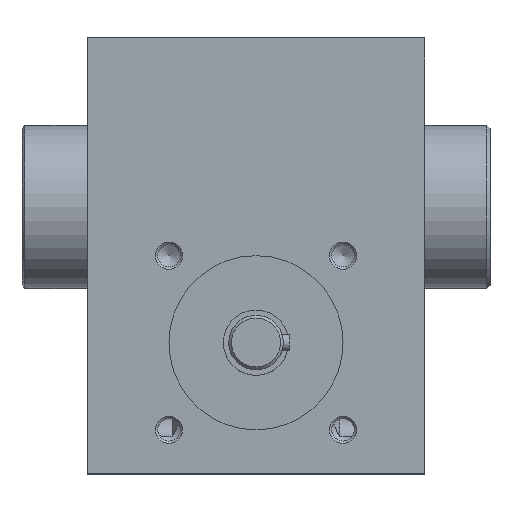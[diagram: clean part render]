
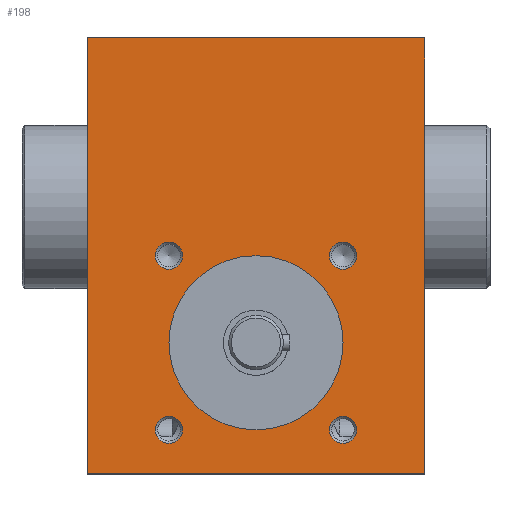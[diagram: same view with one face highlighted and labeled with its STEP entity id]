
A CAD part, top view. The second image highlights one B-rep face of the part: STEP entity #198.
In plain terms, the highlighted planar face has unit normal (0, 0, 1).
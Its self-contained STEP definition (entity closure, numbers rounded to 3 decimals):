
#198 = ADVANCED_FACE( '', ( #460, #461, #462, #463, #464, #465 ), #466, .T. );
#460 = FACE_BOUND( '', #803, .T. );
#461 = FACE_BOUND( '', #804, .T. );
#462 = FACE_BOUND( '', #805, .T. );
#463 = FACE_BOUND( '', #806, .T. );
#464 = FACE_BOUND( '', #807, .T. );
#465 = FACE_OUTER_BOUND( '', #808, .T. );
#466 = PLANE( '', #809 );
#803 = EDGE_LOOP( '', ( #1278 ) );
#804 = EDGE_LOOP( '', ( #1279 ) );
#805 = EDGE_LOOP( '', ( #1280 ) );
#806 = EDGE_LOOP( '', ( #1281 ) );
#807 = EDGE_LOOP( '', ( #1282 ) );
#808 = EDGE_LOOP( '', ( #1283, #1284, #1285, #1286 ) );
#809 = AXIS2_PLACEMENT_3D( '', #1287, #1288, #1289 );
#1278 = ORIENTED_EDGE( '', *, *, #1775, .F. );
#1279 = ORIENTED_EDGE( '', *, *, #1655, .F. );
#1280 = ORIENTED_EDGE( '', *, *, #1776, .F. );
#1281 = ORIENTED_EDGE( '', *, *, #1768, .F. );
#1282 = ORIENTED_EDGE( '', *, *, #1773, .F. );
#1283 = ORIENTED_EDGE( '', *, *, #1742, .T. );
#1284 = ORIENTED_EDGE( '', *, *, #1777, .T. );
#1285 = ORIENTED_EDGE( '', *, *, #1778, .T. );
#1286 = ORIENTED_EDGE( '', *, *, #1730, .T. );
#1287 = CARTESIAN_POINT( '', ( 0., -49., 36. ) );
#1288 = DIRECTION( '', ( 0., 0., 1. ) );
#1289 = DIRECTION( '', ( 1., 0., 0. ) );
#1655 = EDGE_CURVE( '', #1926, #1926, #1927, .T. );
#1730 = EDGE_CURVE( '', #2048, #2046, #2049, .T. );
#1742 = EDGE_CURVE( '', #2046, #2065, #2067, .T. );
#1768 = EDGE_CURVE( '', #2103, #2103, #2104, .T. );
#1773 = EDGE_CURVE( '', #2111, #2111, #2112, .T. );
#1775 = EDGE_CURVE( '', #2114, #2114, #2115, .T. );
#1776 = EDGE_CURVE( '', #2116, #2116, #2117, .T. );
#1777 = EDGE_CURVE( '', #2065, #2118, #2119, .T. );
#1778 = EDGE_CURVE( '', #2118, #2048, #2120, .T. );
#1926 = VERTEX_POINT( '', #2385 );
#1927 = CIRCLE( '', #2386, 2.5 );
#2046 = VERTEX_POINT( '', #2666 );
#2048 = VERTEX_POINT( '', #2669 );
#2049 = LINE( '', #2670, #2671 );
#2065 = VERTEX_POINT( '', #2700 );
#2067 = LINE( '', #2703, #2704 );
#2103 = VERTEX_POINT( '', #2762 );
#2104 = CIRCLE( '', #2763, 2.5 );
#2111 = VERTEX_POINT( '', #2770 );
#2112 = CIRCLE( '', #2771, 16. );
#2114 = VERTEX_POINT( '', #2773 );
#2115 = CIRCLE( '', #2774, 2.5 );
#2116 = VERTEX_POINT( '', #2775 );
#2117 = CIRCLE( '', #2776, 2.5 );
#2118 = VERTEX_POINT( '', #2777 );
#2119 = LINE( '', #2778, #2779 );
#2120 = LINE( '', #2780, #2781 );
#2385 = CARTESIAN_POINT( '', ( 49.5, -9., 36. ) );
#2386 = AXIS2_PLACEMENT_3D( '', #2959, #2960, #2961 );
#2666 = CARTESIAN_POINT( '', ( 0., 31., 36. ) );
#2669 = CARTESIAN_POINT( '', ( 62., 31., 36. ) );
#2670 = CARTESIAN_POINT( '', ( 62., 31., 36. ) );
#2671 = VECTOR( '', #3069, 1000. );
#2700 = CARTESIAN_POINT( '', ( 0., -49., 36. ) );
#2703 = CARTESIAN_POINT( '', ( 0., 31., 36. ) );
#2704 = VECTOR( '', #3083, 1000. );
#2762 = CARTESIAN_POINT( '', ( 17.5, -41., 36. ) );
#2763 = AXIS2_PLACEMENT_3D( '', #3111, #3112, #3113 );
#2770 = CARTESIAN_POINT( '', ( 47., -25., 36. ) );
#2771 = AXIS2_PLACEMENT_3D( '', #3120, #3121, #3122 );
#2773 = CARTESIAN_POINT( '', ( 17.5, -9., 36. ) );
#2774 = AXIS2_PLACEMENT_3D( '', #3123, #3124, #3125 );
#2775 = CARTESIAN_POINT( '', ( 49.5, -41., 36. ) );
#2776 = AXIS2_PLACEMENT_3D( '', #3126, #3127, #3128 );
#2777 = CARTESIAN_POINT( '', ( 62., -49., 36. ) );
#2778 = CARTESIAN_POINT( '', ( 0., -49., 36. ) );
#2779 = VECTOR( '', #3129, 1000. );
#2780 = CARTESIAN_POINT( '', ( 62., -49., 36. ) );
#2781 = VECTOR( '', #3130, 1000. );
#2959 = CARTESIAN_POINT( '', ( 47., -9., 36. ) );
#2960 = DIRECTION( '', ( 0., 0., 1. ) );
#2961 = DIRECTION( '', ( 1., 0., 0. ) );
#3069 = DIRECTION( '', ( -1., 0., 0. ) );
#3083 = DIRECTION( '', ( 0., -1., 0. ) );
#3111 = CARTESIAN_POINT( '', ( 15., -41., 36. ) );
#3112 = DIRECTION( '', ( 0., 0., 1. ) );
#3113 = DIRECTION( '', ( 1., 0., 0. ) );
#3120 = CARTESIAN_POINT( '', ( 31., -25., 36. ) );
#3121 = DIRECTION( '', ( 0., 0., 1. ) );
#3122 = DIRECTION( '', ( 1., 0., 0. ) );
#3123 = CARTESIAN_POINT( '', ( 15., -9., 36. ) );
#3124 = DIRECTION( '', ( 0., 0., 1. ) );
#3125 = DIRECTION( '', ( 1., 0., 0. ) );
#3126 = CARTESIAN_POINT( '', ( 47., -41., 36. ) );
#3127 = DIRECTION( '', ( 0., 0., 1. ) );
#3128 = DIRECTION( '', ( 1., 0., 0. ) );
#3129 = DIRECTION( '', ( 1., 0., 0. ) );
#3130 = DIRECTION( '', ( 0., 1., 0. ) );
